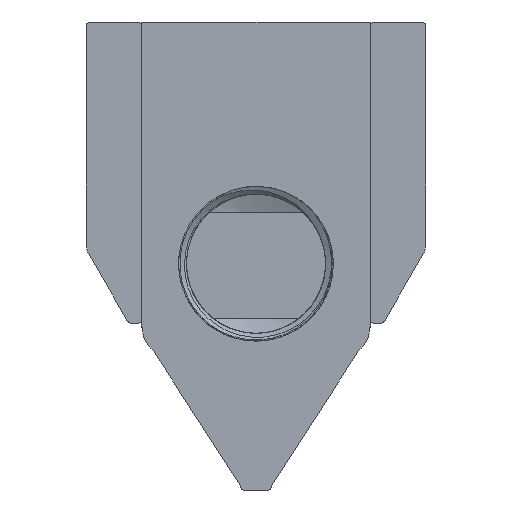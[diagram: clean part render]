
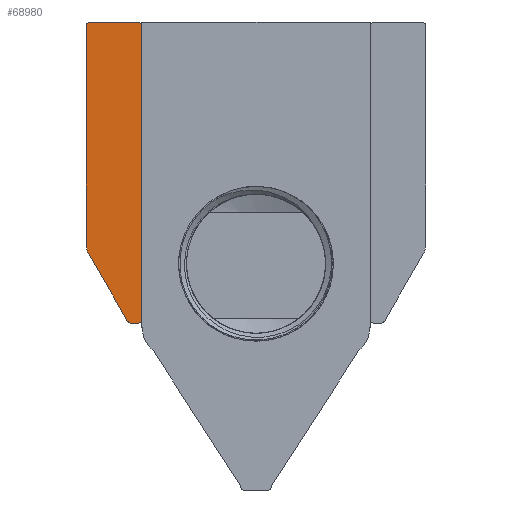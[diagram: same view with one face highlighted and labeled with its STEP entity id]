
A CAD part, left-side view. The second image highlights one B-rep face of the part: STEP entity #68980.
In plain terms, the highlighted planar face has unit normal (-1, 0, 0).
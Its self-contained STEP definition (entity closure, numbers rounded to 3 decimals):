
#1630 = CARTESIAN_POINT ( 'NONE',  ( -140., 12.58, -33. ) ) ;
#2425 = CARTESIAN_POINT ( 'NONE',  ( -140., 12.58, -33. ) ) ;
#2926 = DIRECTION ( 'NONE',  ( 0., 0., -1. ) ) ;
#8119 = CARTESIAN_POINT ( 'NONE',  ( -140., 17.38, -24.678 ) ) ;
#11163 = CARTESIAN_POINT ( 'NONE',  ( -140., 12.58, -33. ) ) ;
#12807 = EDGE_CURVE ( 'NONE', #136368, #108491, #121072, .T. ) ;
#12894 = DIRECTION ( 'NONE',  ( 0., 0., -1. ) ) ;
#13104 = CARTESIAN_POINT ( 'NONE',  ( -140., 12.58, 0. ) ) ;
#18680 = VERTEX_POINT ( 'NONE', #32227 ) ;
#22318 = CIRCLE ( 'NONE', #132515, 0.25 ) ;
#22436 = EDGE_CURVE ( 'NONE', #46788, #71918, #83346, .T. ) ;
#23595 = DIRECTION ( 'NONE',  ( 0., -0.5, -0.866 ) ) ;
#24284 = ORIENTED_EDGE ( 'NONE', *, *, #39161, .T. ) ;
#26060 = EDGE_CURVE ( 'NONE', #71918, #112160, #80734, .T. ) ;
#26193 = CARTESIAN_POINT ( 'NONE',  ( -140., 18.18, -0.4 ) ) ;
#26693 = ORIENTED_EDGE ( 'NONE', *, *, #108971, .T. ) ;
#26902 = EDGE_CURVE ( 'NONE', #41543, #28053, #158925, .T. ) ;
#27264 = DIRECTION ( 'NONE',  ( 0., 0., -1. ) ) ;
#28053 = VERTEX_POINT ( 'NONE', #133455 ) ;
#28607 = CARTESIAN_POINT ( 'NONE',  ( -140., 12.58, -32.75 ) ) ;
#29860 = DIRECTION ( 'NONE',  ( 1., 0., 0. ) ) ;
#32227 = CARTESIAN_POINT ( 'NONE',  ( -140., 18.18, 0. ) ) ;
#35055 = CARTESIAN_POINT ( 'NONE',  ( -140., 13.73, -32.6 ) ) ;
#36018 = EDGE_CURVE ( 'NONE', #47115, #41543, #53103, .T. ) ;
#37966 = DIRECTION ( 'NONE',  ( -1., 0., 0. ) ) ;
#39161 = EDGE_CURVE ( 'NONE', #28053, #136368, #22318, .T. ) ;
#41543 = VERTEX_POINT ( 'NONE', #129264 ) ;
#45704 = FACE_OUTER_BOUND ( 'NONE', #68741, .T. ) ;
#46788 = VERTEX_POINT ( 'NONE', #142153 ) ;
#47115 = VERTEX_POINT ( 'NONE', #152579 ) ;
#49680 = DIRECTION ( 'NONE',  ( 0., 0., -1. ) ) ;
#50091 = DIRECTION ( 'NONE',  ( -1., 0., 0. ) ) ;
#50973 = CARTESIAN_POINT ( 'NONE',  ( -140., 13.961, -33. ) ) ;
#53103 = CIRCLE ( 'NONE', #174661, 0.4 ) ;
#53869 = CARTESIAN_POINT ( 'NONE',  ( -140., 18.58, -24.678 ) ) ;
#54856 = AXIS2_PLACEMENT_3D ( 'NONE', #148962, #149827, #2926 ) ;
#57816 = CARTESIAN_POINT ( 'NONE',  ( -140., 12.98, 0. ) ) ;
#59870 = DIRECTION ( 'NONE',  ( 0., 0., -1. ) ) ;
#61603 = DIRECTION ( 'NONE',  ( 0., 0., -1. ) ) ;
#62118 = DIRECTION ( 'NONE',  ( -1., 0., 0. ) ) ;
#63310 = VECTOR ( 'NONE', #123990, 1000. ) ;
#68741 = EDGE_LOOP ( 'NONE', ( #88461, #71635, #69502, #92494, #82967, #24284, #92565, #160357, #120274, #26693 ) ) ;
#68980 = ADVANCED_FACE ( 'NONE', ( #45704 ), #138641, .F. ) ;
#69502 = ORIENTED_EDGE ( 'NONE', *, *, #89922, .T. ) ;
#70028 = VECTOR ( 'NONE', #121034, 1000. ) ;
#70101 = CARTESIAN_POINT ( 'NONE',  ( -140., 18.58, -33. ) ) ;
#71635 = ORIENTED_EDGE ( 'NONE', *, *, #26060, .T. ) ;
#71918 = VERTEX_POINT ( 'NONE', #53869 ) ;
#72901 = CIRCLE ( 'NONE', #95509, 0.4 ) ;
#80734 = CIRCLE ( 'NONE', #162664, 1.2 ) ;
#82967 = ORIENTED_EDGE ( 'NONE', *, *, #26902, .T. ) ;
#83346 = LINE ( 'NONE', #70101, #63310 ) ;
#88461 = ORIENTED_EDGE ( 'NONE', *, *, #22436, .T. ) ;
#89628 = EDGE_CURVE ( 'NONE', #118448, #18680, #134315, .T. ) ;
#89922 = EDGE_CURVE ( 'NONE', #112160, #47115, #144769, .T. ) ;
#92494 = ORIENTED_EDGE ( 'NONE', *, *, #36018, .T. ) ;
#92565 = ORIENTED_EDGE ( 'NONE', *, *, #12807, .T. ) ;
#95509 = AXIS2_PLACEMENT_3D ( 'NONE', #26193, #50091, #12894 ) ;
#97878 = AXIS2_PLACEMENT_3D ( 'NONE', #2425, #29860, #59870 ) ;
#108491 = VERTEX_POINT ( 'NONE', #125831 ) ;
#108971 = EDGE_CURVE ( 'NONE', #18680, #46788, #72901, .T. ) ;
#112160 = VERTEX_POINT ( 'NONE', #145279 ) ;
#117385 = EDGE_CURVE ( 'NONE', #108491, #118448, #131155, .T. ) ;
#118448 = VERTEX_POINT ( 'NONE', #57816 ) ;
#120188 = DIRECTION ( 'NONE',  ( 0., 0., 1. ) ) ;
#120274 = ORIENTED_EDGE ( 'NONE', *, *, #89628, .T. ) ;
#121034 = DIRECTION ( 'NONE',  ( 0., 1., 0. ) ) ;
#121072 = LINE ( 'NONE', #1630, #125872 ) ;
#123990 = DIRECTION ( 'NONE',  ( 0., 0., -1. ) ) ;
#125831 = CARTESIAN_POINT ( 'NONE',  ( -140., 12.58, -0.4 ) ) ;
#125872 = VECTOR ( 'NONE', #120188, 1000. ) ;
#129264 = CARTESIAN_POINT ( 'NONE',  ( -140., 13.73, -33. ) ) ;
#131155 = CIRCLE ( 'NONE', #54856, 0.4 ) ;
#132515 = AXIS2_PLACEMENT_3D ( 'NONE', #133433, #37966, #27264 ) ;
#133433 = CARTESIAN_POINT ( 'NONE',  ( -140., 12.83, -32.75 ) ) ;
#133455 = CARTESIAN_POINT ( 'NONE',  ( -140., 12.83, -33. ) ) ;
#134315 = LINE ( 'NONE', #13104, #70028 ) ;
#135002 = VECTOR ( 'NONE', #23595, 1000. ) ;
#136368 = VERTEX_POINT ( 'NONE', #28607 ) ;
#138641 = PLANE ( 'NONE',  #97878 ) ;
#142153 = CARTESIAN_POINT ( 'NONE',  ( -140., 18.58, -0.4 ) ) ;
#144769 = LINE ( 'NONE', #50973, #135002 ) ;
#145279 = CARTESIAN_POINT ( 'NONE',  ( -140., 18.419, -25.278 ) ) ;
#148962 = CARTESIAN_POINT ( 'NONE',  ( -140., 12.98, -0.4 ) ) ;
#149827 = DIRECTION ( 'NONE',  ( -1., 0., 0. ) ) ;
#152579 = CARTESIAN_POINT ( 'NONE',  ( -140., 14.077, -32.8 ) ) ;
#157082 = DIRECTION ( 'NONE',  ( -1., 0., 0. ) ) ;
#157229 = VECTOR ( 'NONE', #173168, 1000. ) ;
#158925 = LINE ( 'NONE', #11163, #157229 ) ;
#160357 = ORIENTED_EDGE ( 'NONE', *, *, #117385, .T. ) ;
#162664 = AXIS2_PLACEMENT_3D ( 'NONE', #8119, #62118, #49680 ) ;
#173168 = DIRECTION ( 'NONE',  ( 0., -1., 0. ) ) ;
#174661 = AXIS2_PLACEMENT_3D ( 'NONE', #35055, #157082, #61603 ) ;
